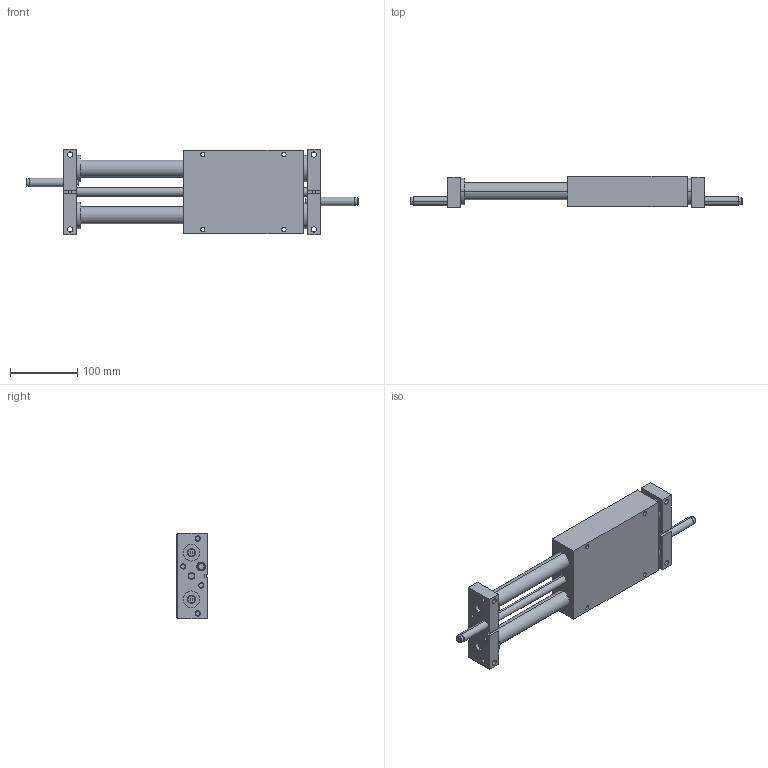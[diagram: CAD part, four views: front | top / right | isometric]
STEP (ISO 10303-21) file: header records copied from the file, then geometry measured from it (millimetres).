
FILE_DESCRIPTION (( 'STEP AP203' ), '1' );
FILE_NAME ('AGS-6 in IN.STEP', '2014-11-06T19:42:44', ( 'setup' ), ( '' ), 'SwSTEP 2.0', 'SolidWorks 2013', '' );
FILE_SCHEMA (( 'CONFIG_CONTROL_DESIGN' ));
Length unit declared in the file: inch
Products named in the file (11): AGS-6 a3D3; AGS-6 pPD3; AGS-6 aPD3; AGS-6 a1D3; AGS-6 rPD3; AGS-6 BODY; AGS-6 in IN; AGS-6 r1D3; AGS-6 p1D3; AGS-6 a2D3; AGS-6 RING
Assembly tree (14 placements, depth 2):
  AGS-6 in IN
    AGS-6 BODY
    AGS-6 r1D3
    AGS-6 p1D3
    AGS-6 RING  x4
    AGS-6 a2D3
    AGS-6 a3D3
    AGS-6 pPD3
    AGS-6 aPD3
    AGS-6 a1D3
    AGS-6 rPD3  x2
Bounding box: 492.76 x 46.05 x 127 mm (x, y, z)
Volume: 1380706.6 mm3; surface area: 252419.9 mm2
Topology: 14 solids, 14 shells, 326 faces, 736 edges, 456 vertices
Faces by surface type: cylinder 144, plane 98, cone 76, torus 8
Entity records: 9709 total; most frequent: CARTESIAN_POINT 1909, DIRECTION 1480, ORIENTED_EDGE 1236, EDGE_CURVE 618, AXIS2_PLACEMENT_3D 591, VERTEX_POINT 384, EDGE_LOOP 362, CIRCLE 300
